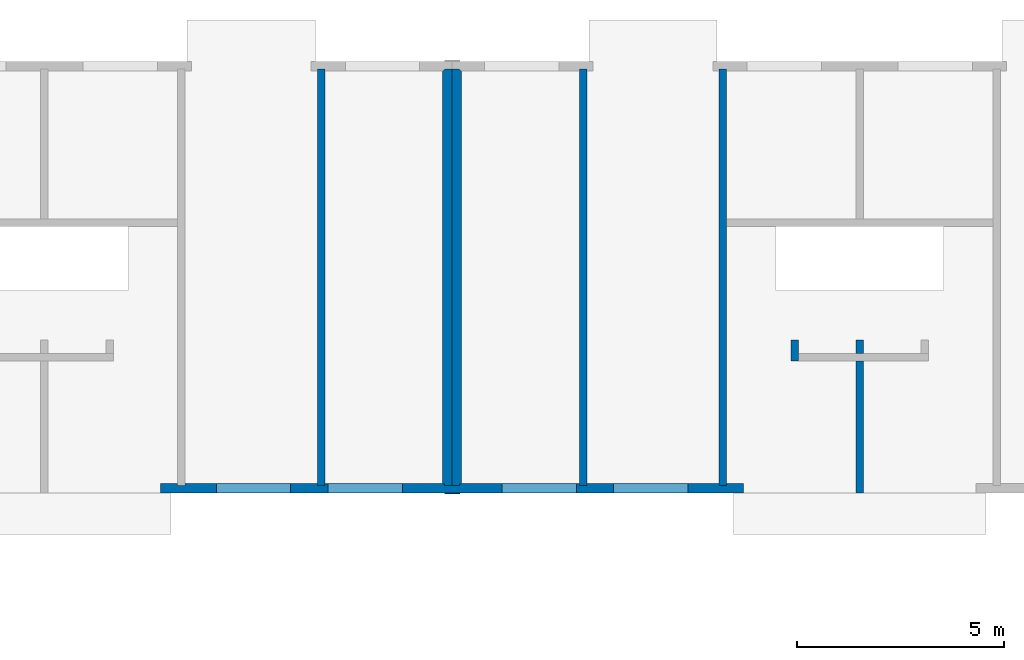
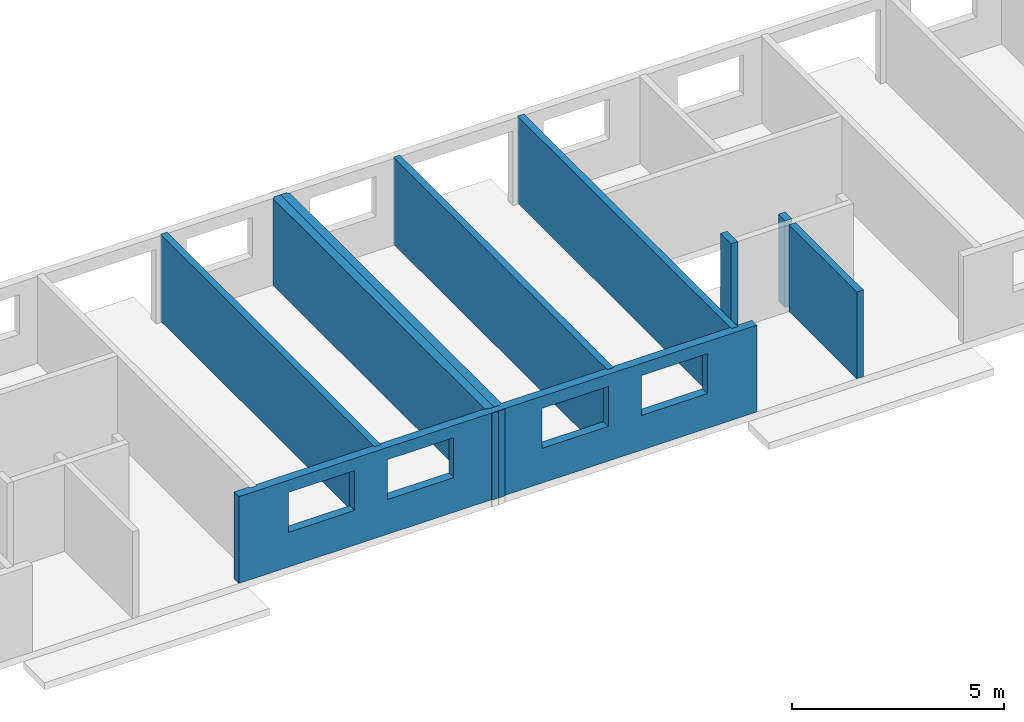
# One storey, part 3 of 9: 11 walls, 4 openings.
"""IFC2X3 building model written with IfcOpenShell, lengths in millimetres."""

from ifc_helpers import new_model, entity, si_unit, converted_unit, frame, frame_2d, origin, origin_with_axes, place, context, subcontext, project, spatial, polyline, rectangle, outline, extrude, material, layer, layer_set, layer_usage, element, save


model = new_model("IFC2X3")

# Units and contexts
model_context = context("Model", 3, precision=1e-05, world=origin())
plan_context = context("Plan", 3, precision=1e-05, world=origin())
body_context = subcontext(model_context, "Body", "Model", "MODEL_VIEW")
ifc_project = project(units=[si_unit("LENGTHUNIT", "METRE", prefix="MILLI"), converted_unit("PLANEANGLEUNIT", "DEGREE", entity("IfcPlaneAngleMeasure", 0.0174532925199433), si_unit("PLANEANGLEUNIT", "RADIAN"), dimensions=[0, 0, 0, 0, 0, 0, 0]), si_unit("AREAUNIT", "SQUARE_METRE"), si_unit("VOLUMEUNIT", "CUBIC_METRE")], contexts=[model_context, plan_context])

# Building, storey
building_placement = place(None, origin())
building = spatial("IfcBuilding", under=ifc_project, at=building_placement, Name="Bâtiment", CompositionType="ELEMENT")
storey_placement = place(building_placement, frame((0.0, 0.0, 2700.0), z_axis=(0.0, 0.0, 1.0), x_axis=(1.0, 0.0, 0.0)))
storey = spatial("IfcBuildingStorey", under=building, at=storey_placement, Name="r+1", CompositionType="ELEMENT", Elevation=2700.0)

# Walls
ifc_material_1 = material(Name="moellons")
ifc_layer_1 = layer(ifc_material_1, 180.0)
ifc_material_2 = material(Name="briquettes")
ifc_layer_2 = layer(ifc_material_2, 40.0)
ifc_material_3 = material(Name="enduit platre")
ifc_layer_3 = layer(ifc_material_3, 10.0)
ifc_layer_set_1 = layer_set([ifc_layer_1, ifc_layer_2, ifc_layer_3])
ifc_layer_usage_1 = layer_usage(ifc_layer_set_1, "AXIS2", "POSITIVE", 0.0)
wall_1_placement = place(storey_placement, frame((19849.99999999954, 10290.07776548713, 0.0), z_axis=(0.0, 0.0, 1.0), x_axis=(-3.605559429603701e-16, -1.0, 0.0)))
element("IfcWallStandardCase", 1, at=wall_1_placement, inside=storey, material=ifc_layer_usage_1, context=body_context, shape_type="SweptSolid", body=[
    extrude(outline(polyline([(0.0, 0.0), (10089.91497192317, 0.0), (10089.91497192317, 180.0), (10049.91497192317, 180.0), (10049.91497192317, 220.0), (10039.91497192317, 220.0), (10039.91497192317, 230.0), (49.99999999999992, 230.0), (49.99999999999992, 220.0), (39.99999999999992, 220.0), (39.99999999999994, 180.0), (-6.490006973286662e-14, 180.0), (0.0, 0.0)])), origin_with_axes(), (0.0, 0.0, 1.0), 2500.0),
])
ifc_material_4 = material(Name="moellons")
ifc_layer_4 = layer(ifc_material_4, 180.0)
ifc_material_5 = material(Name="briquettes")
ifc_layer_5 = layer(ifc_material_5, 40.0)
ifc_material_6 = material(Name="enduit platre")
ifc_layer_6 = layer(ifc_material_6, 10.0)
ifc_layer_set_2 = layer_set([ifc_layer_4, ifc_layer_5, ifc_layer_6])
ifc_layer_usage_2 = layer_usage(ifc_layer_set_2, "AXIS2", "POSITIVE", 0.0)
wall_2_placement = place(storey_placement, frame((19849.99999999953, 200.16279356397, 0.0), z_axis=(0.0, 0.0, 1.0), x_axis=(0.0, 1.0, 0.0)))
element("IfcWallStandardCase", 2, at=wall_2_placement, inside=storey, material=ifc_layer_usage_2, context=body_context, shape_type="SweptSolid", body=[
    extrude(outline(polyline([(0.0, 0.0), (10089.91497192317, 0.0), (10089.91497192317, 180.0), (10049.91497192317, 180.0), (10049.91497192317, 220.0), (10039.91497192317, 220.0), (10039.91497192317, 230.0), (50.0, 230.0), (50.0, 220.0), (40.0, 220.0), (40.0, 180.0), (0.0, 180.0), (0.0, 0.0)])), origin_with_axes(), (0.0, 0.0, 1.0), 2500.0),
])
ifc_material_7 = material(Name="moellons")
ifc_layer_7 = layer(ifc_material_7, 20.16279356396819)
ifc_layer_set_3 = layer_set([ifc_layer_7])
ifc_layer_usage_3 = layer_usage(ifc_layer_set_3, "AXIS2", "POSITIVE", 0.0)
wall_3_placement = place(storey_placement, frame((20029.99999999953, 1.818989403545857e-12, 0.0), z_axis=(0.0, 0.0, 1.0), x_axis=(-1.0, 0.0, 0.0)))
element("IfcWallStandardCase", 3, at=wall_3_placement, inside=storey, material=ifc_layer_usage_3, context=body_context, shape_type="SweptSolid", body=[
    extrude(rectangle(XDim=180.0, YDim=20.16279356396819, at=frame_2d((90.0, 10.0813967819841), x_axis=(1.0, 0.0))), frame((0.0, -20.16279356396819, 0.0), z_axis=(0.0, 0.0, 1.0), x_axis=(1.0, 0.0, 0.0)), (0.0, 0.0, 1.0), 2500.0),
])
ifc_material_8 = material(Name="moellons")
ifc_layer_8 = layer(ifc_material_8, 20.16279356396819)
ifc_layer_set_4 = layer_set([ifc_layer_8])
ifc_layer_usage_4 = layer_usage(ifc_layer_set_4, "AXIS2", "POSITIVE", 0.0)
wall_4_placement = place(storey_placement, frame((19849.99999999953, 1.818989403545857e-12, 0.0), z_axis=(0.0, 0.0, 1.0), x_axis=(-1.0, 0.0, 0.0)))
element("IfcWallStandardCase", 4, at=wall_4_placement, inside=storey, material=ifc_layer_usage_4, context=body_context, shape_type="SweptSolid", body=[
    extrude(rectangle(XDim=180.0, YDim=20.16279356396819, at=frame_2d((90.0, 10.0813967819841), x_axis=(1.0, 0.0))), frame((0.0, -20.16279356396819, 0.0), z_axis=(0.0, 0.0, 1.0), x_axis=(1.0, 0.0, 0.0)), (0.0, 0.0, 1.0), 2500.0),
])
ifc_material_9 = material(Name="moellons")
ifc_layer_9 = layer(ifc_material_9, 180.0)
ifc_layer_set_5 = layer_set([ifc_layer_9])
ifc_layer_usage_5 = layer_usage(ifc_layer_set_5, "AXIS2", "POSITIVE", 0.0)
wall_5_placement = place(storey_placement, frame((16770.00000000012, 200.0775509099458, 0.0), z_axis=(0.0, 0.0, 1.0), x_axis=(0.0, 1.0, 0.0)))
element("IfcWallStandardCase", 5, at=wall_5_placement, inside=storey, material=ifc_layer_usage_5, context=body_context, shape_type="SweptSolid", body=[
    extrude(rectangle(XDim=10090.00021457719, YDim=180.0, at=frame_2d((5045.000107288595, 90.0), x_axis=(1.0, 0.0))), origin_with_axes(), (0.0, 0.0, 1.0), 2500.0),
])
ifc_material_10 = material(Name="moellons")
ifc_layer_10 = layer(ifc_material_10, 180.0)
ifc_layer_set_6 = layer_set([ifc_layer_10])
ifc_layer_usage_6 = layer_usage(ifc_layer_set_6, "AXIS2", "POSITIVE", 0.0)
wall_6_placement = place(storey_placement, frame((23109.99999999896, 200.077550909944, 0.0), z_axis=(0.0, 0.0, 1.0), x_axis=(0.0, 1.0, 0.0)))
element("IfcWallStandardCase", 6, at=wall_6_placement, inside=storey, material=ifc_layer_usage_6, context=body_context, shape_type="SweptSolid", body=[
    extrude(rectangle(XDim=10090.00021457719, YDim=180.0, at=frame_2d((5045.000107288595, 90.0), x_axis=(1.0, 0.0))), origin_with_axes(), (0.0, 0.0, 1.0), 2500.0),
])
ifc_material_11 = material(Name="moellons")
ifc_layer_11 = layer(ifc_material_11, 180.0)
ifc_layer_set_7 = layer_set([ifc_layer_11])
ifc_layer_usage_7 = layer_usage(ifc_layer_set_7, "AXIS2", "POSITIVE", 0.0)
wall_7_placement = place(storey_placement, frame((26490.00006176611, 200.077550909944, 0.0), z_axis=(0.0, 0.0, 1.0), x_axis=(0.0, 1.0, 0.0)))
element("IfcWallStandardCase", 7, at=wall_7_placement, inside=storey, material=ifc_layer_usage_7, context=body_context, shape_type="SweptSolid", body=[
    extrude(rectangle(XDim=10090.00021457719, YDim=180.0, at=frame_2d((5045.000107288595, 90.0), x_axis=(1.0, 0.0))), origin_with_axes(), (0.0, 0.0, 1.0), 2500.0),
])
ifc_material_12 = material(Name="moellons")
ifc_layer_12 = layer(ifc_material_12, 180.0)
ifc_layer_set_8 = layer_set([ifc_layer_12])
ifc_layer_usage_8 = layer_usage(ifc_layer_set_8, "AXIS2", "POSITIVE", 0.0)
wall_8_placement = place(storey_placement, frame((29804.99999999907, 20.03893477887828, 0.0), z_axis=(0.0, 0.0, 1.0), x_axis=(0.0, 1.0, 0.0)))
element("IfcWallStandardCase", 8, at=wall_8_placement, inside=storey, material=ifc_layer_usage_8, context=body_context, shape_type="SweptSolid", body=[
    extrude(outline(polyline([(0.0, 0.0), (3200.038830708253, 0.0), (3200.038830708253, 180.0), (-0.0007169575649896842, 180.0), (0.0, 0.0)])), origin_with_axes(), (0.0, 0.0, 1.0), 2500.0),
])
ifc_material_13 = material(Name="moellons")
ifc_layer_13 = layer(ifc_material_13, 180.0)
ifc_layer_set_9 = layer_set([ifc_layer_13])
ifc_layer_usage_9 = layer_usage(ifc_layer_set_9, "AXIS2", "POSITIVE", 0.0)
wall_9_placement = place(storey_placement, frame((29804.99999999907, 20.03893477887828, 0.0), z_axis=(0.0, 0.0, 1.0), x_axis=(0.0, 1.0, 0.0)))
element("IfcWallStandardCase", 9, at=wall_9_placement, inside=storey, material=ifc_layer_usage_9, context=body_context, shape_type="SweptSolid", body=[
    extrude(outline(polyline([(3380.038830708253, 0.0), (3700.038830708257, 0.0), (3700.038830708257, 180.0), (3380.038830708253, 180.0), (3380.038830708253, 0.0)])), origin_with_axes(), (0.0, 0.0, 1.0), 2500.0),
])
ifc_material_14 = material(Name="moellons")
ifc_layer_14 = layer(ifc_material_14, 180.0)
ifc_layer_set_10 = layer_set([ifc_layer_14])
ifc_layer_usage_10 = layer_usage(ifc_layer_set_10, "AXIS2", "POSITIVE", 0.0)
wall_10_placement = place(storey_placement, frame((28229.99951490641, 3220.077765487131, 0.0), z_axis=(0.0, 0.0, 1.0), x_axis=(0.0, 1.0, 0.0)))
element("IfcWallStandardCase", 10, at=wall_10_placement, inside=storey, material=ifc_layer_usage_10, context=body_context, shape_type="SweptSolid", body=[
    extrude(rectangle(XDim=500.0, YDim=180.0, at=frame_2d((250.0, 90.0), x_axis=(1.0, 0.0))), origin_with_axes(), (0.0, 0.0, 1.0), 2500.0),
])

# Wall, openings
ifc_material_15 = material(Name="moellons")
ifc_layer_15 = layer(ifc_material_15, 179.9956502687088)
ifc_material_16 = material(Name="briquettes")
ifc_layer_16 = layer(ifc_material_16, 40.0)
ifc_material_17 = material(Name="enduit platre")
ifc_layer_17 = layer(ifc_material_17, 10.0)
ifc_layer_set_11 = layer_set([ifc_layer_15, ifc_layer_16, ifc_layer_17])
ifc_layer_usage_11 = layer_usage(ifc_layer_set_11, "AXIS2", "POSITIVE", 0.0)
wall_11_placement = place(storey_placement, frame((12795.00000000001, 20.16279356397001, 0.0), z_axis=(0.0, 0.0, 1.0), x_axis=(1.0, 0.0, 0.0)))
wall_11 = element("IfcWallStandardCase", 11, at=wall_11_placement, inside=storey, material=ifc_layer_usage_11, context=body_context, shape_type="SweptSolid", body=[
    extrude(outline(polyline([(7274.999999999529, 230.0), (7274.999999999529, 220.0), (7234.999999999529, 220.0), (7234.999999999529, 180.0), (6874.999999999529, 180.0), (6874.999999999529, 220.0), (6834.999999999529, 220.0), (6834.999999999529, 230.0), (3975.000000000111, 230.0), (3975.000000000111, 179.9147573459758), (3795.000000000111, 179.9147573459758), (3795.000000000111, 230.0), (594.9999381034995, 230.0), (594.9999381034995, 179.9147573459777), (414.9999381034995, 179.9147573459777), (414.9999381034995, 230.0), (0.0, 230.0), (0.0, 0.0), (14110.00054685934, 0.0), (14110.00054685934, 230.0), (13695.0000617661, 230.0), (13695.0000617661, 179.914757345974), (13515.0000617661, 179.914757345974), (13515.0000617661, 230.0), (10314.99999999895, 230.0), (10314.99999999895, 179.914757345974), (10134.99999999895, 179.914757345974), (10134.99999999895, 230.0), (7274.999999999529, 230.0)])), origin_with_axes(), (0.0, 0.0, 1.0), 2500.0),
])
opening_1_placement = place(wall_11_placement, frame((1349.999999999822, 0.0, 1000.0), z_axis=(0.0, 1.0, 0.0), x_axis=(0.0, 0.0, 1.0)))
element("IfcOpeningElement", 12, at=opening_1_placement, cuts=wall_11, Name="Baie de fenêtre", ObjectType="Opening", context=body_context, shape_type="SweptSolid", body=[
    extrude(rectangle(XDim=1150.0, YDim=1800.0, at=frame_2d((575.0, 900.0), x_axis=(1.0, 0.0))), origin_with_axes(), (0.0, 0.0, 1.0), 230.0),
])
opening_2_placement = place(wall_11_placement, frame((4049.999999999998, 0.0, 1000.0), z_axis=(0.0, 1.0, 0.0), x_axis=(0.0, 0.0, 1.0)))
element("IfcOpeningElement", 13, at=opening_2_placement, cuts=wall_11, Name="Baie de fenêtre", ObjectType="Opening", context=body_context, shape_type="SweptSolid", body=[
    extrude(rectangle(XDim=1150.0, YDim=1800.0, at=frame_2d((575.0, 900.0), x_axis=(1.0, 0.0))), origin_with_axes(), (0.0, 0.0, 1.0), 230.0),
])
opening_3_placement = place(wall_11_placement, frame((8259.99999999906, 0.0, 1000.0), z_axis=(0.0, 1.0, 0.0), x_axis=(0.0, 0.0, 1.0)))
element("IfcOpeningElement", 14, at=opening_3_placement, cuts=wall_11, Name="Baie de fenêtre", ObjectType="Opening", context=body_context, shape_type="SweptSolid", body=[
    extrude(rectangle(XDim=1150.0, YDim=1800.0, at=frame_2d((575.0, 900.0), x_axis=(1.0, 0.0))), origin_with_axes(), (0.0, 0.0, 1.0), 230.0),
])
opening_4_placement = place(wall_11_placement, frame((10959.99999999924, 0.0, 1000.0), z_axis=(0.0, 1.0, 0.0), x_axis=(0.0, 0.0, 1.0)))
element("IfcOpeningElement", 15, at=opening_4_placement, cuts=wall_11, Name="Baie de fenêtre", ObjectType="Opening", context=body_context, shape_type="SweptSolid", body=[
    extrude(rectangle(XDim=1150.0, YDim=1800.0, at=frame_2d((575.0, 900.0), x_axis=(1.0, 0.0))), origin_with_axes(), (0.0, 0.0, 1.0), 230.0),
])

save(model, "model.ifc")
